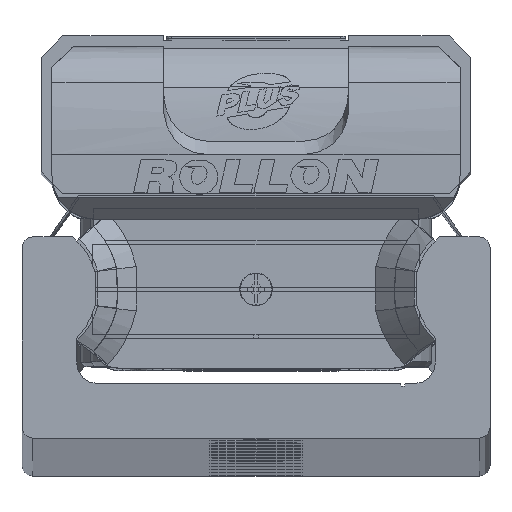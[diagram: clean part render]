
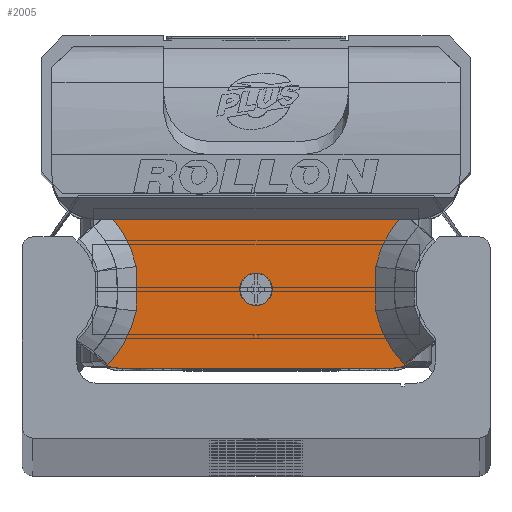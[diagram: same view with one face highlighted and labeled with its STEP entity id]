
A CAD part, top view. The second image highlights one B-rep face of the part: STEP entity #2005.
In plain terms, the highlighted planar face has unit normal (0, 0, 1) as drawn and (0, 0, -1) by its records, which use the part's own axes.
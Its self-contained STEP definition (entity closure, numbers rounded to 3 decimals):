
#2005 = ADVANCED_FACE( '', ( #4255, #4256 ), #4257, .F. );
#4255 = FACE_BOUND( '', #6728, .T. );
#4256 = FACE_OUTER_BOUND( '', #6729, .T. );
#4257 = PLANE( '', #6730 );
#6728 = EDGE_LOOP( '', ( #12043 ) );
#6729 = EDGE_LOOP( '', ( #12044, #12045, #12046, #12047, #12048, #12049, #12050, #12051, #12052, #12053, #12054, #12055 ) );
#6730 = AXIS2_PLACEMENT_3D( '', #12056, #12057, #12058 );
#12043 = ORIENTED_EDGE( '', *, *, #15023, .T. );
#12044 = ORIENTED_EDGE( '', *, *, #13223, .T. );
#12045 = ORIENTED_EDGE( '', *, *, #14864, .F. );
#12046 = ORIENTED_EDGE( '', *, *, #15138, .T. );
#12047 = ORIENTED_EDGE( '', *, *, #13074, .F. );
#12048 = ORIENTED_EDGE( '', *, *, #14943, .T. );
#12049 = ORIENTED_EDGE( '', *, *, #13539, .T. );
#12050 = ORIENTED_EDGE( '', *, *, #13854, .T. );
#12051 = ORIENTED_EDGE( '', *, *, #15057, .T. );
#12052 = ORIENTED_EDGE( '', *, *, #14792, .T. );
#12053 = ORIENTED_EDGE( '', *, *, #13681, .T. );
#12054 = ORIENTED_EDGE( '', *, *, #14085, .T. );
#12055 = ORIENTED_EDGE( '', *, *, #14614, .T. );
#12056 = CARTESIAN_POINT( '', ( 14.9, 7.35, -13.25 ) );
#12057 = DIRECTION( '', ( 0., 0., 1. ) );
#12058 = DIRECTION( '', ( 1., 0., 0. ) );
#13074 = EDGE_CURVE( '', #15445, #15446, #15447, .T. );
#13223 = EDGE_CURVE( '', #15709, #15707, #15710, .T. );
#13539 = EDGE_CURVE( '', #16255, #16253, #16256, .T. );
#13681 = EDGE_CURVE( '', #16479, #16485, #16487, .T. );
#13854 = EDGE_CURVE( '', #16253, #16769, #16771, .T. );
#14085 = EDGE_CURVE( '', #16485, #17141, #17143, .T. );
#14614 = EDGE_CURVE( '', #17141, #15709, #17913, .T. );
#14792 = EDGE_CURVE( '', #18144, #16479, #18145, .T. );
#14864 = EDGE_CURVE( '', #18235, #15707, #18237, .T. );
#14943 = EDGE_CURVE( '', #15445, #16255, #18337, .T. );
#15023 = EDGE_CURVE( '', #18428, #18428, #18429, .T. );
#15057 = EDGE_CURVE( '', #16769, #18144, #18466, .T. );
#15138 = EDGE_CURVE( '', #18235, #15446, #18556, .T. );
#15445 = VERTEX_POINT( '', #18905 );
#15446 = VERTEX_POINT( '', #18906 );
#15447 = CIRCLE( '', #18907, 2.5 );
#15707 = VERTEX_POINT( '', #19276 );
#15709 = VERTEX_POINT( '', #19279 );
#15710 = B_SPLINE_CURVE_WITH_KNOTS( '', 1, ( #19280, #19281 ), .UNSPECIFIED., .F., .F., ( 2, 2 ), ( 0., 1. ), .UNSPECIFIED. );
#16253 = VERTEX_POINT( '', #20049 );
#16255 = VERTEX_POINT( '', #20052 );
#16256 = B_SPLINE_CURVE_WITH_KNOTS( '', 2, ( #20053, #20054, #20055, #20056, #20057 ), .UNSPECIFIED., .F., .F., ( 3, 2, 3 ), ( 0., 0.5, 1. ), .UNSPECIFIED. );
#16479 = VERTEX_POINT( '', #20345 );
#16485 = VERTEX_POINT( '', #20358 );
#16487 = B_SPLINE_CURVE_WITH_KNOTS( '', 2, ( #20361, #20362, #20363, #20364, #20365 ), .UNSPECIFIED., .F., .F., ( 3, 2, 3 ), ( 0.133, 0.5, 1. ), .UNSPECIFIED. );
#16769 = VERTEX_POINT( '', #20713 );
#16771 = B_SPLINE_CURVE_WITH_KNOTS( '', 2, ( #20716, #20717, #20718 ), .UNSPECIFIED., .F., .F., ( 3, 3 ), ( 0., 1. ), .UNSPECIFIED. );
#17141 = VERTEX_POINT( '', #21328 );
#17143 = B_SPLINE_CURVE_WITH_KNOTS( '', 2, ( #21331, #21332, #21333 ), .UNSPECIFIED., .F., .F., ( 3, 3 ), ( 0., 1. ), .UNSPECIFIED. );
#17913 = B_SPLINE_CURVE_WITH_KNOTS( '', 2, ( #22431, #22432, #22433, #22434, #22435 ), .UNSPECIFIED., .F., .F., ( 3, 2, 3 ), ( 0., 0.5, 1. ), .UNSPECIFIED. );
#18144 = VERTEX_POINT( '', #22755 );
#18145 = LINE( '', #22756, #22757 );
#18235 = VERTEX_POINT( '', #22878 );
#18237 = CIRCLE( '', #22881, 2.5 );
#18337 = B_SPLINE_CURVE_WITH_KNOTS( '', 1, ( #23012, #23013 ), .UNSPECIFIED., .F., .F., ( 2, 2 ), ( 0., 1. ), .UNSPECIFIED. );
#18428 = VERTEX_POINT( '', #23145 );
#18429 = CIRCLE( '', #23146, 1.5 );
#18466 = B_SPLINE_CURVE_WITH_KNOTS( '', 2, ( #23195, #23196, #23197, #23198, #23199 ), .UNSPECIFIED., .F., .F., ( 3, 2, 3 ), ( 0., 0.5, 0.868 ), .UNSPECIFIED. );
#18556 = LINE( '', #23317, #23318 );
#18905 = CARTESIAN_POINT( '', ( -14.904, -5.718, -13.25 ) );
#18906 = CARTESIAN_POINT( '', ( -12.58, -7.3, -13.25 ) );
#18907 = AXIS2_PLACEMENT_3D( '', #23630, #23631, #23632 );
#19276 = CARTESIAN_POINT( '', ( 14.906, -5.717, -13.25 ) );
#19279 = CARTESIAN_POINT( '', ( 13.628, -6.965, -13.25 ) );
#19280 = CARTESIAN_POINT( '', ( 13.628, -6.965, -13.25 ) );
#19281 = CARTESIAN_POINT( '', ( 14.9, -5.728, -13.25 ) );
#20049 = CARTESIAN_POINT( '', ( -11.012, -2.045, -13.25 ) );
#20052 = CARTESIAN_POINT( '', ( -13.628, -6.965, -13.25 ) );
#20053 = CARTESIAN_POINT( '', ( -13.628, -6.965, -13.25 ) );
#20054 = CARTESIAN_POINT( '', ( -12.638, -5.946, -13.25 ) );
#20055 = CARTESIAN_POINT( '', ( -11.97, -4.691, -13.25 ) );
#20056 = CARTESIAN_POINT( '', ( -11.303, -3.437, -13.25 ) );
#20057 = CARTESIAN_POINT( '', ( -11.012, -2.045, -13.25 ) );
#20345 = CARTESIAN_POINT( '', ( 13.12, 6.4, -13.25 ) );
#20358 = CARTESIAN_POINT( '', ( 11.012, 2.045, -13.25 ) );
#20361 = CARTESIAN_POINT( '', ( 13.119, 6.4, -13.25 ) );
#20362 = CARTESIAN_POINT( '', ( 12.459, 5.608, -13.25 ) );
#20363 = CARTESIAN_POINT( '', ( 11.968, 4.684, -13.25 ) );
#20364 = CARTESIAN_POINT( '', ( 11.301, 3.427, -13.25 ) );
#20365 = CARTESIAN_POINT( '', ( 11.012, 2.045, -13.25 ) );
#20713 = CARTESIAN_POINT( '', ( -11.012, 2.045, -13.25 ) );
#20716 = CARTESIAN_POINT( '', ( -11.012, -2.045, -13.25 ) );
#20717 = CARTESIAN_POINT( '', ( -10.888, 0., -13.25 ) );
#20718 = CARTESIAN_POINT( '', ( -11.012, 2.045, -13.25 ) );
#21328 = CARTESIAN_POINT( '', ( 11.012, -2.045, -13.25 ) );
#21331 = CARTESIAN_POINT( '', ( 11.012, 2.045, -13.25 ) );
#21332 = CARTESIAN_POINT( '', ( 10.888, 0., -13.25 ) );
#21333 = CARTESIAN_POINT( '', ( 11.012, -2.045, -13.25 ) );
#22431 = CARTESIAN_POINT( '', ( 11.012, -2.045, -13.25 ) );
#22432 = CARTESIAN_POINT( '', ( 11.301, -3.43, -13.25 ) );
#22433 = CARTESIAN_POINT( '', ( 11.972, -4.69, -13.25 ) );
#22434 = CARTESIAN_POINT( '', ( 12.642, -5.95, -13.25 ) );
#22435 = CARTESIAN_POINT( '', ( 13.628, -6.965, -13.25 ) );
#22755 = CARTESIAN_POINT( '', ( -13.119, 6.4, -13.25 ) );
#22756 = CARTESIAN_POINT( '', ( 14.9, 6.4, -13.25 ) );
#22757 = VECTOR( '', #25905, 1000. );
#22878 = CARTESIAN_POINT( '', ( 12.58, -7.3, -13.25 ) );
#22881 = AXIS2_PLACEMENT_3D( '', #25975, #25976, #25977 );
#23012 = CARTESIAN_POINT( '', ( -14.915, -5.713, -13.25 ) );
#23013 = CARTESIAN_POINT( '', ( -13.628, -6.965, -13.25 ) );
#23145 = CARTESIAN_POINT( '', ( 1.5, -0.05, -13.25 ) );
#23146 = AXIS2_PLACEMENT_3D( '', #26142, #26143, #26144 );
#23195 = CARTESIAN_POINT( '', ( -11.012, 2.045, -13.25 ) );
#23196 = CARTESIAN_POINT( '', ( -11.302, 3.432, -13.25 ) );
#23197 = CARTESIAN_POINT( '', ( -11.967, 4.685, -13.25 ) );
#23198 = CARTESIAN_POINT( '', ( -12.456, 5.606, -13.25 ) );
#23199 = CARTESIAN_POINT( '', ( -13.119, 6.4, -13.25 ) );
#23317 = CARTESIAN_POINT( '', ( 12.58, -7.3, -13.25 ) );
#23318 = VECTOR( '', #26237, 1000. );
#23630 = CARTESIAN_POINT( '', ( -12.58, -4.8, -13.25 ) );
#23631 = DIRECTION( '', ( 0., 0., 1. ) );
#23632 = DIRECTION( '', ( 1., 0., 0. ) );
#25905 = DIRECTION( '', ( 1., 0., 0. ) );
#25975 = CARTESIAN_POINT( '', ( 12.58, -4.8, -13.25 ) );
#25976 = DIRECTION( '', ( 0., 0., 1. ) );
#25977 = DIRECTION( '', ( 1., 0., 0. ) );
#26142 = CARTESIAN_POINT( '', ( 0., -0.05, -13.25 ) );
#26143 = DIRECTION( '', ( 0., 0., 1. ) );
#26144 = DIRECTION( '', ( 1., 0., 0. ) );
#26237 = DIRECTION( '', ( -1., 0., 0. ) );
